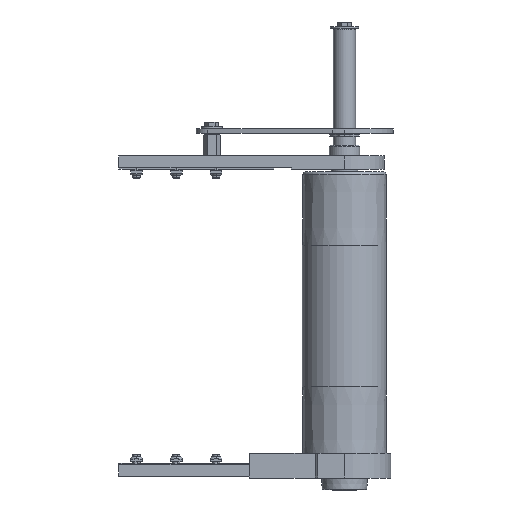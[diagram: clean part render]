
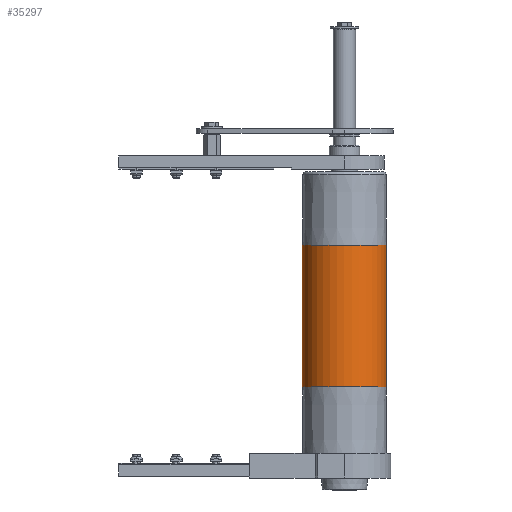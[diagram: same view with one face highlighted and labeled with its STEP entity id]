
A CAD part, front view. The second image highlights one B-rep face of the part: STEP entity #35297.
In plain terms, the highlighted cylindrical face has radius 47.5 mm (diameter 95 mm), a partial arc.
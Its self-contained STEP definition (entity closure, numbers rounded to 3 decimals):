
#2504 = CARTESIAN_POINT ( 'NONE',  ( 0., 0., -80. ) ) ;
#2505 = DIRECTION ( 'NONE',  ( 0., 0., 1. ) ) ;
#2506 = DIRECTION ( 'NONE',  ( 1., 0., 0. ) ) ;
#2508 = CARTESIAN_POINT ( 'NONE',  ( 0., 0., 80. ) ) ;
#2509 = DIRECTION ( 'NONE',  ( 0., 0., 1. ) ) ;
#2510 = DIRECTION ( 'NONE',  ( 1., 0., 0. ) ) ;
#2584 = CARTESIAN_POINT ( 'NONE',  ( 47.5, 0., 160. ) ) ;
#2585 = DIRECTION ( 'NONE',  ( 0., 0., -1. ) ) ;
#2738 = CARTESIAN_POINT ( 'NONE',  ( -47.5, 0., 160. ) ) ;
#2739 = DIRECTION ( 'NONE',  ( 0., 0., -1. ) ) ;
#4937 = AXIS2_PLACEMENT_3D ( 'NONE', #2508, #2509, #2510 ) ;
#4951 = AXIS2_PLACEMENT_3D ( 'NONE', #2504, #2505, #2506 ) ;
#6659 = FACE_OUTER_BOUND ( 'NONE', #14024, .T. ) ;
#6663 = CYLINDRICAL_SURFACE ( 'NONE', #22559, 47.5 ) ;
#9660 = EDGE_CURVE ( 'NONE', #11024, #10886, #39495, .T. ) ;
#9661 = EDGE_CURVE ( 'NONE', #11236, #11238, #39503, .T. ) ;
#9680 = EDGE_CURVE ( 'NONE', #11238, #10886, #39530, .T. ) ;
#9745 = EDGE_CURVE ( 'NONE', #11236, #11024, #39629, .T. ) ;
#10886 = VERTEX_POINT ( 'NONE', #23534 ) ;
#11024 = VERTEX_POINT ( 'NONE', #23600 ) ;
#11236 = VERTEX_POINT ( 'NONE', #23714 ) ;
#11238 = VERTEX_POINT ( 'NONE', #23715 ) ;
#14024 = EDGE_LOOP ( 'NONE', ( #34902, #34908, #34898, #34894 ) ) ;
#22559 = AXIS2_PLACEMENT_3D ( 'NONE', #24581, #24579, #24574 ) ;
#23534 = CARTESIAN_POINT ( 'NONE',  ( 47.5, 0., -80. ) ) ;
#23600 = CARTESIAN_POINT ( 'NONE',  ( -47.5, 0., -80. ) ) ;
#23714 = CARTESIAN_POINT ( 'NONE',  ( -47.5, 0., 80. ) ) ;
#23715 = CARTESIAN_POINT ( 'NONE',  ( 47.5, 0., 80. ) ) ;
#24574 = DIRECTION ( 'NONE',  ( -1., 0., 0. ) ) ;
#24579 = DIRECTION ( 'NONE',  ( 0., 0., -1. ) ) ;
#24581 = CARTESIAN_POINT ( 'NONE',  ( 0., 0., 160. ) ) ;
#34894 = ORIENTED_EDGE ( 'NONE', *, *, #9660, .T. ) ;
#34898 = ORIENTED_EDGE ( 'NONE', *, *, #9745, .T. ) ;
#34902 = ORIENTED_EDGE ( 'NONE', *, *, #9680, .F. ) ;
#34908 = ORIENTED_EDGE ( 'NONE', *, *, #9661, .F. ) ;
#35297 = ADVANCED_FACE ( 'NONE', ( #6659 ), #6663, .T. ) ;
#39495 = CIRCLE ( 'NONE', #4951, 47.5 ) ;
#39503 = CIRCLE ( 'NONE', #4937, 47.5 ) ;
#39530 = LINE ( 'NONE', #2584, #39533 ) ;
#39533 = VECTOR ( 'NONE', #2585, 1000. ) ;
#39629 = LINE ( 'NONE', #2738, #39632 ) ;
#39632 = VECTOR ( 'NONE', #2739, 1000. ) ;
